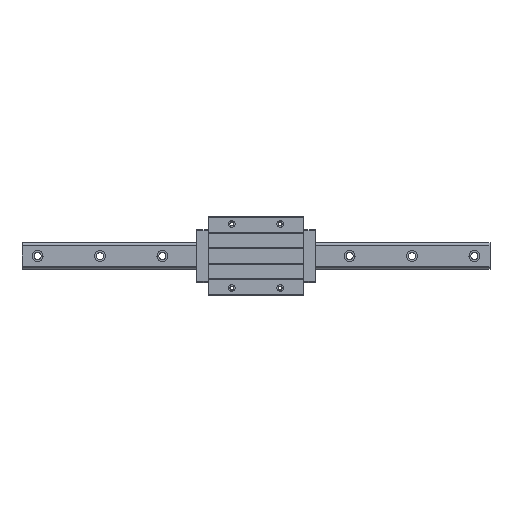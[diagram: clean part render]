
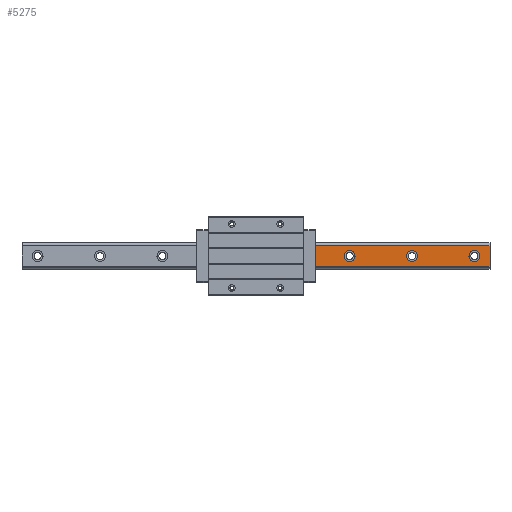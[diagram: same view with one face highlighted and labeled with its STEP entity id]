
A CAD part, top view. The second image highlights one B-rep face of the part: STEP entity #5275.
In plain terms, the highlighted planar face has unit normal (0, 0, 1).
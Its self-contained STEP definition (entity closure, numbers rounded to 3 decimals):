
#39 = CIRCLE ( 'NONE', #770, 7. ) ;
#109 = FACE_BOUND ( 'NONE', #2602, .T. ) ;
#122 = EDGE_LOOP ( 'NONE', ( #3116, #1293, #3774, #5513 ) ) ;
#319 = VERTEX_POINT ( 'NONE', #1500 ) ;
#328 = DIRECTION ( 'NONE',  ( 0., 0., -1. ) ) ;
#365 = LINE ( 'NONE', #3949, #3822 ) ;
#411 = DIRECTION ( 'NONE',  ( 1., 0., 0. ) ) ;
#710 = CIRCLE ( 'NONE', #1541, 7. ) ;
#747 = ORIENTED_EDGE ( 'NONE', *, *, #5563, .T. ) ;
#755 = EDGE_CURVE ( 'NONE', #5782, #2323, #710, .T. ) ;
#770 = AXIS2_PLACEMENT_3D ( 'NONE', #5924, #990, #2482 ) ;
#990 = DIRECTION ( 'NONE',  ( 0., 0., -1. ) ) ;
#1119 = DIRECTION ( 'NONE',  ( 0., 0., -1. ) ) ;
#1157 = CARTESIAN_POINT ( 'NONE',  ( 300., 13.408, 26. ) ) ;
#1185 = AXIS2_PLACEMENT_3D ( 'NONE', #3945, #5464, #2005 ) ;
#1227 = DIRECTION ( 'NONE',  ( 0., 0., -1. ) ) ;
#1293 = ORIENTED_EDGE ( 'NONE', *, *, #1912, .F. ) ;
#1485 = CARTESIAN_POINT ( 'NONE',  ( 300., -13.408, 26. ) ) ;
#1500 = CARTESIAN_POINT ( 'NONE',  ( 273., 0., 26. ) ) ;
#1541 = AXIS2_PLACEMENT_3D ( 'NONE', #3330, #3844, #1783 ) ;
#1642 = ORIENTED_EDGE ( 'NONE', *, *, #2090, .T. ) ;
#1694 = LINE ( 'NONE', #4701, #1826 ) ;
#1783 = DIRECTION ( 'NONE',  ( -1., 0., 0. ) ) ;
#1803 = ORIENTED_EDGE ( 'NONE', *, *, #755, .T. ) ;
#1826 = VECTOR ( 'NONE', #4866, 1000. ) ;
#1912 = EDGE_CURVE ( 'NONE', #3541, #4278, #1694, .T. ) ;
#1943 = CIRCLE ( 'NONE', #4462, 7. ) ;
#1960 = EDGE_CURVE ( 'NONE', #4976, #4278, #365, .T. ) ;
#1971 = CARTESIAN_POINT ( 'NONE',  ( 75.7, 13.408, 26. ) ) ;
#2005 = DIRECTION ( 'NONE',  ( -1., 0., 0. ) ) ;
#2055 = FACE_OUTER_BOUND ( 'NONE', #122, .T. ) ;
#2090 = EDGE_CURVE ( 'NONE', #6071, #319, #1943, .T. ) ;
#2197 = VECTOR ( 'NONE', #5126, 1000. ) ;
#2323 = VERTEX_POINT ( 'NONE', #4268 ) ;
#2482 = DIRECTION ( 'NONE',  ( -1., 0., 0. ) ) ;
#2518 = EDGE_CURVE ( 'NONE', #3541, #3812, #4881, .T. ) ;
#2540 = CIRCLE ( 'NONE', #1185, 7. ) ;
#2602 = EDGE_LOOP ( 'NONE', ( #3284, #747 ) ) ;
#2612 = EDGE_CURVE ( 'NONE', #4976, #3812, #3629, .T. ) ;
#2625 = CIRCLE ( 'NONE', #5700, 7. ) ;
#2645 = VERTEX_POINT ( 'NONE', #5442 ) ;
#2725 = EDGE_LOOP ( 'NONE', ( #3515, #1803 ) ) ;
#2980 = EDGE_CURVE ( 'NONE', #5829, #2645, #2625, .T. ) ;
#3035 = CARTESIAN_POINT ( 'NONE',  ( 280., 0., 26. ) ) ;
#3116 = ORIENTED_EDGE ( 'NONE', *, *, #1960, .T. ) ;
#3284 = ORIENTED_EDGE ( 'NONE', *, *, #2980, .T. ) ;
#3330 = CARTESIAN_POINT ( 'NONE',  ( 120., 0., 26. ) ) ;
#3503 = CARTESIAN_POINT ( 'NONE',  ( 75.7, -13.408, 26. ) ) ;
#3515 = ORIENTED_EDGE ( 'NONE', *, *, #4410, .T. ) ;
#3541 = VERTEX_POINT ( 'NONE', #3503 ) ;
#3582 = AXIS2_PLACEMENT_3D ( 'NONE', #6055, #1119, #4449 ) ;
#3629 = LINE ( 'NONE', #5614, #2197 ) ;
#3716 = DIRECTION ( 'NONE',  ( -1., 0., 0. ) ) ;
#3774 = ORIENTED_EDGE ( 'NONE', *, *, #2518, .T. ) ;
#3812 = VERTEX_POINT ( 'NONE', #4800 ) ;
#3822 = VECTOR ( 'NONE', #4408, 1000. ) ;
#3844 = DIRECTION ( 'NONE',  ( 0., 0., -1. ) ) ;
#3945 = CARTESIAN_POINT ( 'NONE',  ( 200., 0., 26. ) ) ;
#3949 = CARTESIAN_POINT ( 'NONE',  ( 300., 13.408, 26. ) ) ;
#4088 = PLANE ( 'NONE',  #3582 ) ;
#4268 = CARTESIAN_POINT ( 'NONE',  ( 127., 0., 26. ) ) ;
#4278 = VERTEX_POINT ( 'NONE', #1971 ) ;
#4386 = AXIS2_PLACEMENT_3D ( 'NONE', #4504, #5045, #6075 ) ;
#4408 = DIRECTION ( 'NONE',  ( -1., 0., 0. ) ) ;
#4410 = EDGE_CURVE ( 'NONE', #2323, #5782, #5524, .T. ) ;
#4449 = DIRECTION ( 'NONE',  ( 0., -1., 0. ) ) ;
#4462 = AXIS2_PLACEMENT_3D ( 'NONE', #3035, #1227, #4986 ) ;
#4504 = CARTESIAN_POINT ( 'NONE',  ( 120., 0., 26. ) ) ;
#4552 = FACE_BOUND ( 'NONE', #2725, .T. ) ;
#4701 = CARTESIAN_POINT ( 'NONE',  ( 75.7, -13.408, 26. ) ) ;
#4800 = CARTESIAN_POINT ( 'NONE',  ( 300., -13.408, 26. ) ) ;
#4866 = DIRECTION ( 'NONE',  ( 0., 1., 0. ) ) ;
#4881 = LINE ( 'NONE', #1485, #5025 ) ;
#4975 = CARTESIAN_POINT ( 'NONE',  ( 207., 0., 26. ) ) ;
#4976 = VERTEX_POINT ( 'NONE', #1157 ) ;
#4986 = DIRECTION ( 'NONE',  ( -1., 0., 0. ) ) ;
#5025 = VECTOR ( 'NONE', #411, 1000. ) ;
#5045 = DIRECTION ( 'NONE',  ( 0., 0., -1. ) ) ;
#5126 = DIRECTION ( 'NONE',  ( 0., -1., 0. ) ) ;
#5172 = CARTESIAN_POINT ( 'NONE',  ( 113., 0., 26. ) ) ;
#5178 = CARTESIAN_POINT ( 'NONE',  ( 200., 0., 26. ) ) ;
#5227 = CARTESIAN_POINT ( 'NONE',  ( 287., 0., 26. ) ) ;
#5275 = ADVANCED_FACE ( 'NONE', ( #4552, #109, #5576, #2055 ), #4088, .F. ) ;
#5284 = EDGE_CURVE ( 'NONE', #319, #6071, #39, .T. ) ;
#5442 = CARTESIAN_POINT ( 'NONE',  ( 193., 0., 26. ) ) ;
#5464 = DIRECTION ( 'NONE',  ( 0., 0., -1. ) ) ;
#5513 = ORIENTED_EDGE ( 'NONE', *, *, #2612, .F. ) ;
#5524 = CIRCLE ( 'NONE', #4386, 7. ) ;
#5563 = EDGE_CURVE ( 'NONE', #2645, #5829, #2540, .T. ) ;
#5576 = FACE_BOUND ( 'NONE', #6411, .T. ) ;
#5614 = CARTESIAN_POINT ( 'NONE',  ( 300., 13.6, 26. ) ) ;
#5700 = AXIS2_PLACEMENT_3D ( 'NONE', #5178, #328, #3716 ) ;
#5782 = VERTEX_POINT ( 'NONE', #5172 ) ;
#5829 = VERTEX_POINT ( 'NONE', #4975 ) ;
#5924 = CARTESIAN_POINT ( 'NONE',  ( 280., 0., 26. ) ) ;
#6038 = ORIENTED_EDGE ( 'NONE', *, *, #5284, .T. ) ;
#6055 = CARTESIAN_POINT ( 'NONE',  ( 300., 0., 26. ) ) ;
#6071 = VERTEX_POINT ( 'NONE', #5227 ) ;
#6075 = DIRECTION ( 'NONE',  ( -1., 0., 0. ) ) ;
#6411 = EDGE_LOOP ( 'NONE', ( #1642, #6038 ) ) ;
